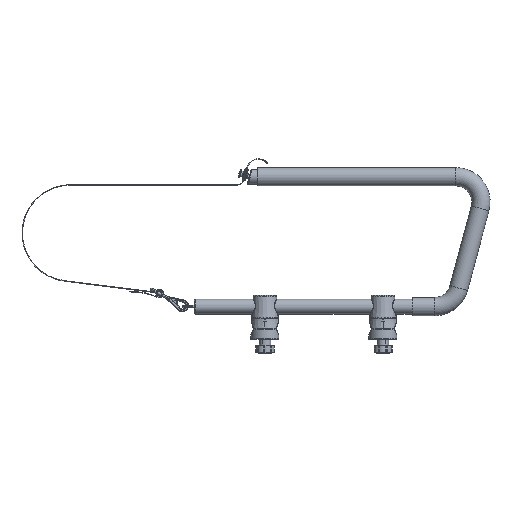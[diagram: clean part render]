
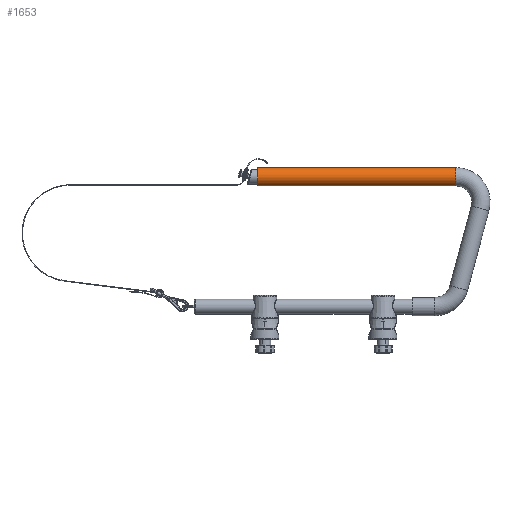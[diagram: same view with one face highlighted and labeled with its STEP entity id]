
A CAD part, left-side view. The second image highlights one B-rep face of the part: STEP entity #1653.
In plain terms, the highlighted cylindrical face has radius 15.5 mm (diameter 31 mm), a partial arc.
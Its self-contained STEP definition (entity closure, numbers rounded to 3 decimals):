
#438 = CARTESIAN_POINT ( 'NONE',  ( -204.5, 332.15, 0. ) ) ;
#698 = AXIS2_PLACEMENT_3D ( 'NONE', #31979, #26253, #23861 ) ;
#1110 = ORIENTED_EDGE ( 'NONE', *, *, #9370, .T. ) ;
#1223 = AXIS2_PLACEMENT_3D ( 'NONE', #21922, #32895, #16330 ) ;
#1653 = ADVANCED_FACE ( 'NONE', ( #19094 ), #7172, .T. ) ;
#2577 = VECTOR ( 'NONE', #7195, 1000. ) ;
#4988 = CARTESIAN_POINT ( 'NONE',  ( -235.5, -3.562, 0. ) ) ;
#5658 = CARTESIAN_POINT ( 'NONE',  ( -204.5, -3.562, 0. ) ) ;
#5691 = DIRECTION ( 'NONE',  ( -1., 0., 0. ) ) ;
#6509 = EDGE_CURVE ( 'NONE', #26544, #11714, #9073, .T. ) ;
#7172 = CYLINDRICAL_SURFACE ( 'NONE', #13043, 15.5 ) ;
#7195 = DIRECTION ( 'NONE',  ( 0., 1., 0. ) ) ;
#8439 = CARTESIAN_POINT ( 'NONE',  ( -220., -3.562, 0. ) ) ;
#9073 = CIRCLE ( 'NONE', #698, 15.5 ) ;
#9370 = EDGE_CURVE ( 'NONE', #26544, #25838, #11548, .T. ) ;
#10121 = VECTOR ( 'NONE', #29990, 1000. ) ;
#11548 = LINE ( 'NONE', #28528, #2577 ) ;
#11714 = VERTEX_POINT ( 'NONE', #22580 ) ;
#12198 = EDGE_CURVE ( 'NONE', #11714, #26635, #22024, .T. ) ;
#13043 = AXIS2_PLACEMENT_3D ( 'NONE', #8439, #19035, #5691 ) ;
#16330 = DIRECTION ( 'NONE',  ( 1., 0., 0. ) ) ;
#17755 = EDGE_LOOP ( 'NONE', ( #21379, #26506, #1110, #31243 ) ) ;
#19035 = DIRECTION ( 'NONE',  ( 0., 1., 0. ) ) ;
#19094 = FACE_OUTER_BOUND ( 'NONE', #17755, .T. ) ;
#21379 = ORIENTED_EDGE ( 'NONE', *, *, #12198, .F. ) ;
#21922 = CARTESIAN_POINT ( 'NONE',  ( -220., 332.15, 0. ) ) ;
#22024 = LINE ( 'NONE', #5658, #10121 ) ;
#22580 = CARTESIAN_POINT ( 'NONE',  ( -204.5, -3.562, 0. ) ) ;
#23861 = DIRECTION ( 'NONE',  ( 0., 0., 1. ) ) ;
#25838 = VERTEX_POINT ( 'NONE', #34086 ) ;
#26253 = DIRECTION ( 'NONE',  ( 0., -1., 0. ) ) ;
#26372 = CIRCLE ( 'NONE', #1223, 15.5 ) ;
#26506 = ORIENTED_EDGE ( 'NONE', *, *, #6509, .F. ) ;
#26544 = VERTEX_POINT ( 'NONE', #4988 ) ;
#26635 = VERTEX_POINT ( 'NONE', #438 ) ;
#28528 = CARTESIAN_POINT ( 'NONE',  ( -235.5, -3.562, 0. ) ) ;
#29990 = DIRECTION ( 'NONE',  ( 0., 1., 0. ) ) ;
#31243 = ORIENTED_EDGE ( 'NONE', *, *, #35343, .T. ) ;
#31979 = CARTESIAN_POINT ( 'NONE',  ( -220., -3.562, 0. ) ) ;
#32895 = DIRECTION ( 'NONE',  ( 0., -1., 0. ) ) ;
#34086 = CARTESIAN_POINT ( 'NONE',  ( -235.5, 332.15, 0. ) ) ;
#35343 = EDGE_CURVE ( 'NONE', #25838, #26635, #26372, .T. ) ;
